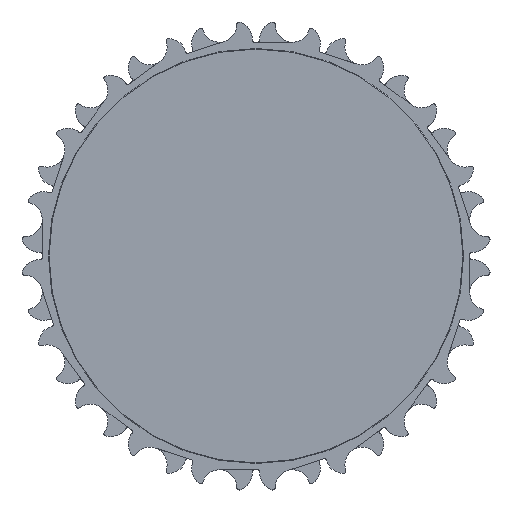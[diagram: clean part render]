
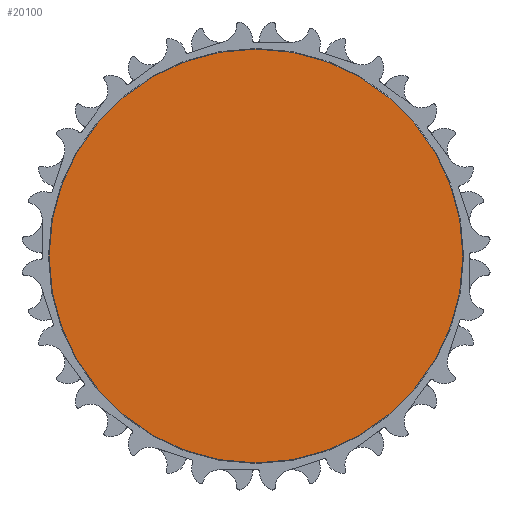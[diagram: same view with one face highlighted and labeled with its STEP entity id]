
A CAD part, front view. The second image highlights one B-rep face of the part: STEP entity #20100.
In plain terms, the highlighted planar face has unit normal (0, -1, 0).
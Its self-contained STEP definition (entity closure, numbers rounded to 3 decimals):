
#7405=CARTESIAN_POINT('',(0.,-16.5,0.));
#7406=DIRECTION('',(0.,-1.,0.));
#7407=DIRECTION('',(1.,0.,0.));
#7408=AXIS2_PLACEMENT_3D('',#7405,#7406,#7407);
#7420=CARTESIAN_POINT('',(0.,-16.5,0.));
#7421=DIRECTION('',(0.,-1.,0.));
#7422=DIRECTION('',(-1.,0.,0.));
#7423=AXIS2_PLACEMENT_3D('',#7420,#7421,#7422);
#7501=CARTESIAN_POINT('',(179.5,-16.5,0.));
#7502=CARTESIAN_POINT('',(-179.5,-16.5,0.));
#7503=VERTEX_POINT('',#7501);
#7504=VERTEX_POINT('',#7502);
#20090=CARTESIAN_POINT('',(0.,-16.5,0.));
#20091=DIRECTION('',(0.,1.,0.));
#20092=DIRECTION('',(-1.,0.,0.));
#20093=AXIS2_PLACEMENT_3D('',#20090,#20091,#20092);
#20094=PLANE('',#20093);
#20095=ORIENTED_EDGE('',*,*,#20080,.F.);
#20097=ORIENTED_EDGE('',*,*,#20096,.F.);
#20098=EDGE_LOOP('',(#20095,#20097));
#20099=FACE_OUTER_BOUND('',#20098,.F.);
#7409=CIRCLE('',#7408,179.5);
#7424=CIRCLE('',#7423,179.5);
#20080=EDGE_CURVE('',#7503,#7504,#7409,.T.);
#20096=EDGE_CURVE('',#7504,#7503,#7424,.T.);
#20100=ADVANCED_FACE('',(#20099),#20094,.F.);
